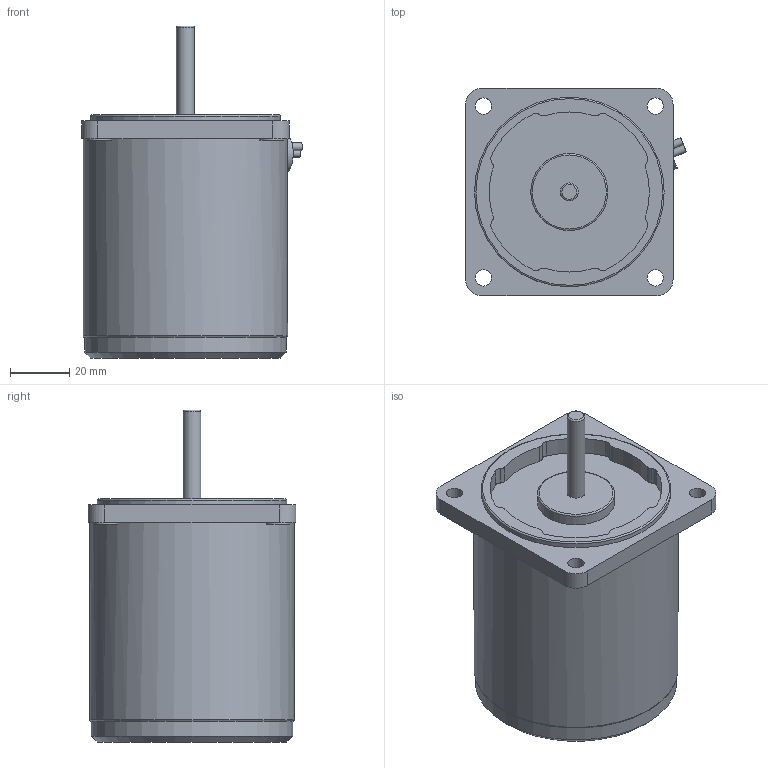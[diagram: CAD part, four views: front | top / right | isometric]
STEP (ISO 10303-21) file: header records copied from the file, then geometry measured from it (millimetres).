
FILE_DESCRIPTION((''),'2;1');
FILE_NAME('E:\2공장-도면\3D\표준형 3D(민규)\step file\K7IS15Nㅁ.stp','2014-11-11T17:21:27',('AHN'),(''),'Autodesk Inventor 2012','Autodesk Inventor 2012','');
FILE_SCHEMA(('CONFIG_CONTROL_DESIGN'));
Length unit declared in the file: millimetre
Products named in the file (1): K7IS15Nㅁ
Bounding box: 74.51 x 70 x 112 mm (x, y, z)
Volume: 299205 mm3; surface area: 29942.5 mm2
Topology: 1 solids, 1 shells, 74 faces, 175 edges, 109 vertices
Faces by surface type: cylinder 48, plane 21, torus 4, cone 1
Full cylindrical faces by diameter (mm): 5.5 x4, 6 x1, 8 x4, 26 x1, 64 x1, 68 x1, 69 x1
Entity records: 2104 total; most frequent: DIRECTION 401, CARTESIAN_POINT 363, ORIENTED_EDGE 306, AXIS2_PLACEMENT_3D 174, EDGE_CURVE 153, EDGE_LOOP 109, VERTEX_POINT 105, CIRCLE 99
